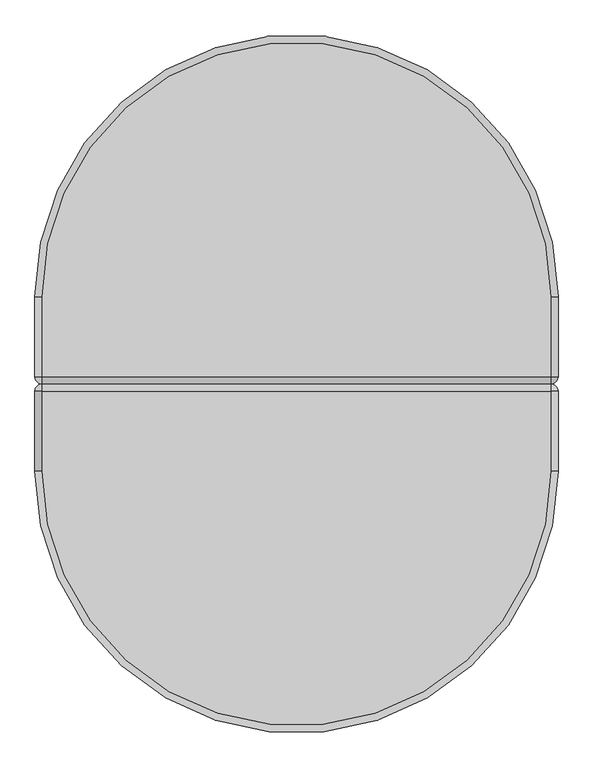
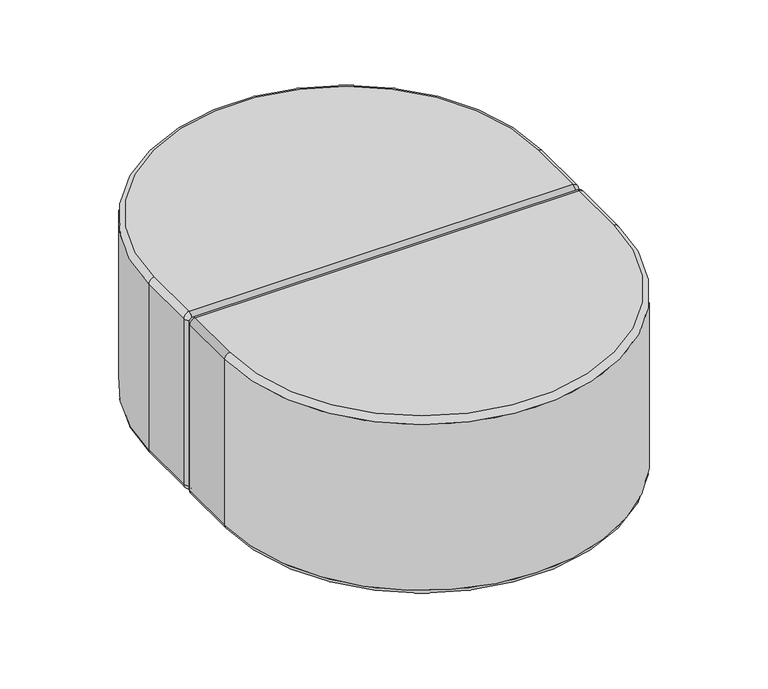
"""IFC4 building model written with IfcOpenShell, lengths in millimetres: furniture geometry, KFI Studios - Conversa - Ottoman : KFI Studios - Conversa - Ottoman."""

from ifc_helpers import new_model, si_unit, point, frame, origin, place, context, project, spatial, polyline, circle_curve, ellipse_curve, trimmed, source, transform, mapped, element, save
from ifc_brep_helpers import plane_surface, cylinder_surface, revolved_surface, advanced_brep


def furniture_520fb8d5(model_context):
    return source(origin(), model_context, "Body", "AdvancedBrep", [
        advanced_brep(
        [(8.2645895, 517.525, 25.4), (0.0, 517.525, 25.4), (-8.2645895, 517.525, 25.4), (8.2645895, 517.525, 14.2843611), (-8.2645895, 517.525, 14.2843611), (6.6626354, 517.525, 14.2843611), (-6.6626354, 517.525, 14.2843611), (6.6626354, 517.525, 12.7064551), (-6.6626354, 517.525, 12.7064551), (8.2640671, 517.525, 12.7064551), (-8.2640671, 517.525, 12.7064551), (17.4491215, 517.525, 3.1950529), (-17.4491215, 517.525, 3.1950529), (17.4491215, 517.525, 0.0), (-17.4491215, 517.525, 0.0), (0.0, 517.525, 0.0)],
        [
            (0, 1),
            (1, 2),
            (2, 0, circle_curve(frame((0.0, 517.525, 25.4), z_axis=(0.0, 0.0, 1.0), x_axis=(-1.0, 0.0, 0.0)), 8.2645895)),
            (0, 2, circle_curve(frame((0.0, 517.525, 25.4), z_axis=(0.0, 0.0, 1.0), x_axis=(-1.0, 0.0, 0.0)), 8.2645895)),
            (3, 0),
            (2, 4),
            (4, 3, circle_curve(frame((0.0, 517.525, 14.2843611), z_axis=(0.0, 0.0, 1.0), x_axis=(-1.0, 0.0, 0.0)), 8.2645895)),
            (3, 4, circle_curve(frame((0.0, 517.525, 14.2843611), z_axis=(0.0, 0.0, 1.0), x_axis=(-1.0, 0.0, 0.0)), 8.2645895)),
            (5, 3),
            (4, 6),
            (6, 5, circle_curve(frame((0.0, 517.525, 14.2843611), z_axis=(0.0, 0.0, 1.0), x_axis=(-1.0, 0.0, 0.0)), 6.6626354)),
            (5, 6, circle_curve(frame((0.0, 517.525, 14.2843611), z_axis=(0.0, 0.0, 1.0), x_axis=(-1.0, 0.0, 0.0)), 6.6626354)),
            (7, 5),
            (6, 8),
            (8, 7, circle_curve(frame((0.0, 517.525, 12.7064551), z_axis=(0.0, 0.0, 1.0), x_axis=(-1.0, 0.0, 0.0)), 6.6626354)),
            (7, 8, circle_curve(frame((0.0, 517.525, 12.7064551), z_axis=(0.0, 0.0, 1.0), x_axis=(-1.0, 0.0, 0.0)), 6.6626354)),
            (9, 7),
            (8, 10),
            (10, 9, circle_curve(frame((0.0, 517.525, 12.7064551), z_axis=(0.0, 0.0, 1.0), x_axis=(-1.0, 0.0, 0.0)), 8.2640671)),
            (9, 10, circle_curve(frame((0.0, 517.525, 12.7064551), z_axis=(0.0, 0.0, 1.0), x_axis=(-1.0, 0.0, 0.0)), 8.2640671)),
            (11, 9),
            (10, 12),
            (12, 11, circle_curve(frame((0.0, 517.525, 3.1950529), z_axis=(0.0, 0.0, 1.0), x_axis=(-1.0, 0.0, 0.0)), 17.4491215)),
            (11, 12, circle_curve(frame((0.0, 517.525, 3.1950529), z_axis=(0.0, 0.0, 1.0), x_axis=(-1.0, 0.0, 0.0)), 17.4491215)),
            (13, 11),
            (12, 14),
            (14, 13, circle_curve(frame((0.0, 517.525, 0.0), z_axis=(0.0, 0.0, 1.0), x_axis=(-1.0, 0.0, 0.0)), 17.4491215)),
            (13, 14, circle_curve(frame((0.0, 517.525, 0.0), z_axis=(0.0, 0.0, 1.0), x_axis=(-1.0, 0.0, 0.0)), 17.4491215)),
            (15, 13),
            (14, 15),
        ],
        [
            plane_surface(frame((0.0, 517.525, 25.4), z_axis=(0.0, 0.0, 1.0), x_axis=(-1.0, 0.0, 0.0))),
            cylinder_surface(frame((0.0, 517.525, 33.820929), z_axis=(0.0, 0.0, -1.0), x_axis=(-1.0, 0.0, 0.0)), 8.2645895),
            plane_surface(frame((0.0, 517.525, 14.2843611), z_axis=(0.0, 0.0, -1.0), x_axis=(-1.0, 0.0, 0.0))),
            cylinder_surface(frame((0.0, 517.525, 33.820929), z_axis=(0.0, 0.0, -1.0), x_axis=(-1.0, 0.0, 0.0)), 6.6626354),
            plane_surface(frame((0.0, 517.525, 12.7064551), z_axis=(0.0, 0.0, 1.0), x_axis=(-1.0, 0.0, 0.0))),
            revolved_surface(polyline([(-8.2640671, 517.525, 12.7064551), (-17.4491215, 517.525, 3.1950529)]), (0.0, 517.525, 33.820929), (0.0, 0.0, -1.0)),
            cylinder_surface(frame((0.0, 517.525, 33.820929), z_axis=(0.0, 0.0, -1.0), x_axis=(-1.0, 0.0, 0.0)), 17.4491215),
            plane_surface(frame((0.0, 517.525, 0.0), z_axis=(0.0, 0.0, -1.0), x_axis=(-1.0, 0.0, 0.0))),
        ],
        [
            (0, [[1, 2, 3]]),
            (0, [[-2, -1, 4]]),
            (1, [[5, -3, 6, 7]]),
            (1, [[-6, -4, -5, 8]]),
            (2, [[9, -7, 10, 11]]),
            (2, [[-10, -8, -9, 12]]),
            (3, [[13, -11, 14, 15]]),
            (3, [[-14, -12, -13, 16]]),
            (4, [[17, -15, 18, 19]]),
            (4, [[-18, -16, -17, 20]]),
            (5, [[21, -19, 22, 23]]),
            (5, [[-22, -20, -21, 24]]),
            (6, [[25, -23, 26, 27]]),
            (6, [[-26, -24, -25, 28]]),
            (7, [[29, -27, 30]]),
            (7, [[-30, -28, -29]]),
        ],
    ),
        advanced_brep(
        [(356.8604105, 92.075, 25.4), (373.3895895, 92.075, 25.4), (365.125, 92.075, 25.4), (356.8604105, 92.075, 14.2843611), (373.3895895, 92.075, 14.2843611), (358.4623646, 92.075, 14.2843611), (371.7876354, 92.075, 14.2843611), (358.4623646, 92.075, 12.7064551), (371.7876354, 92.075, 12.7064551), (356.8609329, 92.075, 12.7064551), (373.3890671, 92.075, 12.7064551), (347.6758785, 92.075, 3.1950529), (382.5741215, 92.075, 3.1950529), (347.6758785, 92.075, 0.0), (382.5741215, 92.075, 0.0), (365.125, 92.075, 0.0)],
        [
            (0, 1, circle_curve(frame((365.125, 92.075, 25.4), z_axis=(0.0, 0.0, 1.0), x_axis=(1.0, 0.0, 0.0)), 8.2645895)),
            (1, 2),
            (2, 0),
            (1, 0, circle_curve(frame((365.125, 92.075, 25.4), z_axis=(0.0, 0.0, 1.0), x_axis=(1.0, 0.0, 0.0)), 8.2645895)),
            (3, 4, circle_curve(frame((365.125, 92.075, 14.2843611), z_axis=(0.0, 0.0, 1.0), x_axis=(1.0, 0.0, 0.0)), 8.2645895)),
            (4, 1),
            (0, 3),
            (4, 3, circle_curve(frame((365.125, 92.075, 14.2843611), z_axis=(0.0, 0.0, 1.0), x_axis=(1.0, 0.0, 0.0)), 8.2645895)),
            (5, 6, circle_curve(frame((365.125, 92.075, 14.2843611), z_axis=(0.0, 0.0, 1.0), x_axis=(1.0, 0.0, 0.0)), 6.6626354)),
            (6, 4),
            (3, 5),
            (6, 5, circle_curve(frame((365.125, 92.075, 14.2843611), z_axis=(0.0, 0.0, 1.0), x_axis=(1.0, 0.0, 0.0)), 6.6626354)),
            (7, 8, circle_curve(frame((365.125, 92.075, 12.7064551), z_axis=(0.0, 0.0, 1.0), x_axis=(1.0, 0.0, 0.0)), 6.6626354)),
            (8, 6),
            (5, 7),
            (8, 7, circle_curve(frame((365.125, 92.075, 12.7064551), z_axis=(0.0, 0.0, 1.0), x_axis=(1.0, 0.0, 0.0)), 6.6626354)),
            (9, 10, circle_curve(frame((365.125, 92.075, 12.7064551), z_axis=(0.0, 0.0, 1.0), x_axis=(1.0, 0.0, 0.0)), 8.2640671)),
            (10, 8),
            (7, 9),
            (10, 9, circle_curve(frame((365.125, 92.075, 12.7064551), z_axis=(0.0, 0.0, 1.0), x_axis=(1.0, 0.0, 0.0)), 8.2640671)),
            (11, 12, circle_curve(frame((365.125, 92.075, 3.1950529), z_axis=(0.0, 0.0, 1.0), x_axis=(1.0, 0.0, 0.0)), 17.4491215)),
            (12, 10),
            (9, 11),
            (12, 11, circle_curve(frame((365.125, 92.075, 3.1950529), z_axis=(0.0, 0.0, 1.0), x_axis=(1.0, 0.0, 0.0)), 17.4491215)),
            (13, 14, circle_curve(frame((365.125, 92.075, 0.0), z_axis=(0.0, 0.0, 1.0), x_axis=(1.0, 0.0, 0.0)), 17.4491215)),
            (14, 12),
            (11, 13),
            (14, 13, circle_curve(frame((365.125, 92.075, 0.0), z_axis=(0.0, 0.0, 1.0), x_axis=(1.0, 0.0, 0.0)), 17.4491215)),
            (15, 14),
            (13, 15),
        ],
        [
            plane_surface(frame((365.125, 92.075, 25.4), z_axis=(0.0, 0.0, 1.0), x_axis=(1.0, 0.0, 0.0))),
            cylinder_surface(frame((365.125, 92.075, 33.820929), z_axis=(0.0, 0.0, -1.0), x_axis=(1.0, 0.0, 0.0)), 8.2645895),
            plane_surface(frame((365.125, 92.075, 14.2843611), z_axis=(0.0, 0.0, -1.0), x_axis=(1.0, 0.0, 0.0))),
            cylinder_surface(frame((365.125, 92.075, 33.820929), z_axis=(0.0, 0.0, -1.0), x_axis=(1.0, 0.0, 0.0)), 6.6626354),
            plane_surface(frame((365.125, 92.075, 12.7064551), z_axis=(0.0, 0.0, 1.0), x_axis=(1.0, 0.0, 0.0))),
            revolved_surface(polyline([(373.3890671, 92.075, 12.7064551), (382.5741215, 92.075, 3.1950529)]), (365.125, 92.075, 33.820929), (0.0, 0.0, -1.0)),
            cylinder_surface(frame((365.125, 92.075, 33.820929), z_axis=(0.0, 0.0, -1.0), x_axis=(1.0, 0.0, 0.0)), 17.4491215),
            plane_surface(frame((365.125, 92.075, 0.0), z_axis=(0.0, 0.0, -1.0), x_axis=(1.0, 0.0, 0.0))),
        ],
        [
            (0, [[1, 2, 3]]),
            (0, [[4, -3, -2]]),
            (1, [[5, 6, -1, 7]]),
            (1, [[8, -7, -4, -6]]),
            (2, [[9, 10, -5, 11]]),
            (2, [[12, -11, -8, -10]]),
            (3, [[13, 14, -9, 15]]),
            (3, [[16, -15, -12, -14]]),
            (4, [[17, 18, -13, 19]]),
            (4, [[20, -19, -16, -18]]),
            (5, [[21, 22, -17, 23]]),
            (5, [[24, -23, -20, -22]]),
            (6, [[25, 26, -21, 27]]),
            (6, [[28, -27, -24, -26]]),
            (7, [[29, -25, 30]]),
            (7, [[-30, -28, -29]]),
        ],
    ),
        advanced_brep(
        [(-356.8604105, 92.075, 25.4), (-365.125, 92.075, 25.4), (-373.3895895, 92.075, 25.4), (-356.8604105, 92.075, 14.2843611), (-373.3895895, 92.075, 14.2843611), (-358.4623646, 92.075, 14.2843611), (-371.7876354, 92.075, 14.2843611), (-358.4623646, 92.075, 12.7064551), (-371.7876354, 92.075, 12.7064551), (-356.8609329, 92.075, 12.7064551), (-373.3890671, 92.075, 12.7064551), (-347.6758785, 92.075, 3.1950529), (-382.5741215, 92.075, 3.1950529), (-347.6758785, 92.075, 0.0), (-382.5741215, 92.075, 0.0), (-365.125, 92.075, 0.0)],
        [
            (0, 1),
            (1, 2),
            (2, 0, circle_curve(frame((-365.125, 92.075, 25.4), z_axis=(0.0, 0.0, 1.0), x_axis=(-1.0, 0.0, 0.0)), 8.2645895)),
            (0, 2, circle_curve(frame((-365.125, 92.075, 25.4), z_axis=(0.0, 0.0, 1.0), x_axis=(-1.0, 0.0, 0.0)), 8.2645895)),
            (3, 0),
            (2, 4),
            (4, 3, circle_curve(frame((-365.125, 92.075, 14.2843611), z_axis=(0.0, 0.0, 1.0), x_axis=(-1.0, 0.0, 0.0)), 8.2645895)),
            (3, 4, circle_curve(frame((-365.125, 92.075, 14.2843611), z_axis=(0.0, 0.0, 1.0), x_axis=(-1.0, 0.0, 0.0)), 8.2645895)),
            (5, 3),
            (4, 6),
            (6, 5, circle_curve(frame((-365.125, 92.075, 14.2843611), z_axis=(0.0, 0.0, 1.0), x_axis=(-1.0, 0.0, 0.0)), 6.6626354)),
            (5, 6, circle_curve(frame((-365.125, 92.075, 14.2843611), z_axis=(0.0, 0.0, 1.0), x_axis=(-1.0, 0.0, 0.0)), 6.6626354)),
            (7, 5),
            (6, 8),
            (8, 7, circle_curve(frame((-365.125, 92.075, 12.7064551), z_axis=(0.0, 0.0, 1.0), x_axis=(-1.0, 0.0, 0.0)), 6.6626354)),
            (7, 8, circle_curve(frame((-365.125, 92.075, 12.7064551), z_axis=(0.0, 0.0, 1.0), x_axis=(-1.0, 0.0, 0.0)), 6.6626354)),
            (9, 7),
            (8, 10),
            (10, 9, circle_curve(frame((-365.125, 92.075, 12.7064551), z_axis=(0.0, 0.0, 1.0), x_axis=(-1.0, 0.0, 0.0)), 8.2640671)),
            (9, 10, circle_curve(frame((-365.125, 92.075, 12.7064551), z_axis=(0.0, 0.0, 1.0), x_axis=(-1.0, 0.0, 0.0)), 8.2640671)),
            (11, 9),
            (10, 12),
            (12, 11, circle_curve(frame((-365.125, 92.075, 3.1950529), z_axis=(0.0, 0.0, 1.0), x_axis=(-1.0, 0.0, 0.0)), 17.4491215)),
            (11, 12, circle_curve(frame((-365.125, 92.075, 3.1950529), z_axis=(0.0, 0.0, 1.0), x_axis=(-1.0, 0.0, 0.0)), 17.4491215)),
            (13, 11),
            (12, 14),
            (14, 13, circle_curve(frame((-365.125, 92.075, 0.0), z_axis=(0.0, 0.0, 1.0), x_axis=(-1.0, 0.0, 0.0)), 17.4491215)),
            (13, 14, circle_curve(frame((-365.125, 92.075, 0.0), z_axis=(0.0, 0.0, 1.0), x_axis=(-1.0, 0.0, 0.0)), 17.4491215)),
            (15, 13),
            (14, 15),
        ],
        [
            plane_surface(frame((-365.125, 92.075, 25.4), z_axis=(0.0, 0.0, 1.0), x_axis=(-1.0, 0.0, 0.0))),
            cylinder_surface(frame((-365.125, 92.075, 33.820929), z_axis=(0.0, 0.0, -1.0), x_axis=(-1.0, 0.0, 0.0)), 8.2645895),
            plane_surface(frame((-365.125, 92.075, 14.2843611), z_axis=(0.0, 0.0, -1.0), x_axis=(-1.0, 0.0, 0.0))),
            cylinder_surface(frame((-365.125, 92.075, 33.820929), z_axis=(0.0, 0.0, -1.0), x_axis=(-1.0, 0.0, 0.0)), 6.6626354),
            plane_surface(frame((-365.125, 92.075, 12.7064551), z_axis=(0.0, 0.0, 1.0), x_axis=(-1.0, 0.0, 0.0))),
            revolved_surface(polyline([(-373.3890671, 92.075, 12.7064551), (-382.5741215, 92.075, 3.1950529)]), (-365.125, 92.075, 33.820929), (0.0, 0.0, -1.0)),
            cylinder_surface(frame((-365.125, 92.075, 33.820929), z_axis=(0.0, 0.0, -1.0), x_axis=(-1.0, 0.0, 0.0)), 17.4491215),
            plane_surface(frame((-365.125, 92.075, 0.0), z_axis=(0.0, 0.0, -1.0), x_axis=(-1.0, 0.0, 0.0))),
        ],
        [
            (0, [[1, 2, 3]]),
            (0, [[-2, -1, 4]]),
            (1, [[5, -3, 6, 7]]),
            (1, [[-6, -4, -5, 8]]),
            (2, [[9, -7, 10, 11]]),
            (2, [[-10, -8, -9, 12]]),
            (3, [[13, -11, 14, 15]]),
            (3, [[-14, -12, -13, 16]]),
            (4, [[17, -15, 18, 19]]),
            (4, [[-18, -16, -17, 20]]),
            (5, [[21, -19, 22, 23]]),
            (5, [[-22, -20, -21, 24]]),
            (6, [[25, -23, 26, 27]]),
            (6, [[-26, -24, -25, 28]]),
            (7, [[29, -27, 30]]),
            (7, [[-30, -28, -29]]),
        ],
    ),
        advanced_brep(
        [(8.2645895, -517.525, 25.4), (-8.2645895, -517.525, 25.4), (0.0, -517.525, 25.4), (8.2645895, -517.525, 14.2843611), (-8.2645895, -517.525, 14.2843611), (6.6626354, -517.525, 14.2843611), (-6.6626354, -517.525, 14.2843611), (6.6626354, -517.525, 12.7064551), (-6.6626354, -517.525, 12.7064551), (8.2640671, -517.525, 12.7064551), (-8.2640671, -517.525, 12.7064551), (17.4491215, -517.525, 3.1950529), (-17.4491215, -517.525, 3.1950529), (17.4491215, -517.525, 0.0), (-17.4491215, -517.525, 0.0), (0.0, -517.525, 0.0)],
        [
            (0, 1, circle_curve(frame((0.0, -517.525, 25.4), z_axis=(0.0, 0.0, 1.0), x_axis=(-1.0, 0.0, 0.0)), 8.2645895)),
            (1, 2),
            (2, 0),
            (1, 0, circle_curve(frame((0.0, -517.525, 25.4), z_axis=(0.0, 0.0, 1.0), x_axis=(-1.0, 0.0, 0.0)), 8.2645895)),
            (3, 4, circle_curve(frame((0.0, -517.525, 14.2843611), z_axis=(0.0, 0.0, 1.0), x_axis=(-1.0, 0.0, 0.0)), 8.2645895)),
            (4, 1),
            (0, 3),
            (4, 3, circle_curve(frame((0.0, -517.525, 14.2843611), z_axis=(0.0, 0.0, 1.0), x_axis=(-1.0, 0.0, 0.0)), 8.2645895)),
            (5, 6, circle_curve(frame((0.0, -517.525, 14.2843611), z_axis=(0.0, 0.0, 1.0), x_axis=(-1.0, 0.0, 0.0)), 6.6626354)),
            (6, 4),
            (3, 5),
            (6, 5, circle_curve(frame((0.0, -517.525, 14.2843611), z_axis=(0.0, 0.0, 1.0), x_axis=(-1.0, 0.0, 0.0)), 6.6626354)),
            (7, 8, circle_curve(frame((0.0, -517.525, 12.7064551), z_axis=(0.0, 0.0, 1.0), x_axis=(-1.0, 0.0, 0.0)), 6.6626354)),
            (8, 6),
            (5, 7),
            (8, 7, circle_curve(frame((0.0, -517.525, 12.7064551), z_axis=(0.0, 0.0, 1.0), x_axis=(-1.0, 0.0, 0.0)), 6.6626354)),
            (9, 10, circle_curve(frame((0.0, -517.525, 12.7064551), z_axis=(0.0, 0.0, 1.0), x_axis=(-1.0, 0.0, 0.0)), 8.2640671)),
            (10, 8),
            (7, 9),
            (10, 9, circle_curve(frame((0.0, -517.525, 12.7064551), z_axis=(0.0, 0.0, 1.0), x_axis=(-1.0, 0.0, 0.0)), 8.2640671)),
            (11, 12, circle_curve(frame((0.0, -517.525, 3.1950529), z_axis=(0.0, 0.0, 1.0), x_axis=(-1.0, 0.0, 0.0)), 17.4491215)),
            (12, 10),
            (9, 11),
            (12, 11, circle_curve(frame((0.0, -517.525, 3.1950529), z_axis=(0.0, 0.0, 1.0), x_axis=(-1.0, 0.0, 0.0)), 17.4491215)),
            (13, 14, circle_curve(frame((0.0, -517.525, 0.0), z_axis=(0.0, 0.0, 1.0), x_axis=(-1.0, 0.0, 0.0)), 17.4491215)),
            (14, 12),
            (11, 13),
            (14, 13, circle_curve(frame((0.0, -517.525, 0.0), z_axis=(0.0, 0.0, 1.0), x_axis=(-1.0, 0.0, 0.0)), 17.4491215)),
            (15, 14),
            (13, 15),
        ],
        [
            plane_surface(frame((0.0, -517.525, 25.4), z_axis=(0.0, 0.0, 1.0), x_axis=(-1.0, 0.0, 0.0))),
            cylinder_surface(frame((0.0, -517.525, 33.820929), z_axis=(0.0, 0.0, -1.0), x_axis=(-1.0, 0.0, 0.0)), 8.2645895),
            plane_surface(frame((0.0, -517.525, 14.2843611), z_axis=(0.0, 0.0, -1.0), x_axis=(-1.0, 0.0, 0.0))),
            cylinder_surface(frame((0.0, -517.525, 33.820929), z_axis=(0.0, 0.0, -1.0), x_axis=(-1.0, 0.0, 0.0)), 6.6626354),
            plane_surface(frame((0.0, -517.525, 12.7064551), z_axis=(0.0, 0.0, 1.0), x_axis=(-1.0, 0.0, 0.0))),
            revolved_surface(polyline([(-8.2640671, -517.525, 12.7064551), (-17.4491215, -517.525, 3.1950529)]), (0.0, -517.525, 33.820929), (0.0, 0.0, -1.0)),
            cylinder_surface(frame((0.0, -517.525, 33.820929), z_axis=(0.0, 0.0, -1.0), x_axis=(-1.0, 0.0, 0.0)), 17.4491215),
            plane_surface(frame((0.0, -517.525, 0.0), z_axis=(0.0, 0.0, -1.0), x_axis=(-1.0, 0.0, 0.0))),
        ],
        [
            (0, [[1, 2, 3]]),
            (0, [[4, -3, -2]]),
            (1, [[5, 6, -1, 7]]),
            (1, [[8, -7, -4, -6]]),
            (2, [[9, 10, -5, 11]]),
            (2, [[12, -11, -8, -10]]),
            (3, [[13, 14, -9, 15]]),
            (3, [[16, -15, -12, -14]]),
            (4, [[17, 18, -13, 19]]),
            (4, [[20, -19, -16, -18]]),
            (5, [[21, 22, -17, 23]]),
            (5, [[24, -23, -20, -22]]),
            (6, [[25, 26, -21, 27]]),
            (6, [[28, -27, -24, -26]]),
            (7, [[29, -25, 30]]),
            (7, [[-30, -28, -29]]),
        ],
    ),
        advanced_brep(
        [(356.8604105, -92.075, 25.4), (365.125, -92.075, 25.4), (373.3895895, -92.075, 25.4), (356.8604105, -92.075, 14.2843611), (373.3895895, -92.075, 14.2843611), (358.4623646, -92.075, 14.2843611), (371.7876354, -92.075, 14.2843611), (358.4623646, -92.075, 12.7064551), (371.7876354, -92.075, 12.7064551), (356.8609329, -92.075, 12.7064551), (373.3890671, -92.075, 12.7064551), (347.6758785, -92.075, 3.1950529), (382.5741215, -92.075, 3.1950529), (347.6758785, -92.075, 0.0), (382.5741215, -92.075, 0.0), (365.125, -92.075, 0.0)],
        [
            (0, 1),
            (1, 2),
            (2, 0, circle_curve(frame((365.125, -92.075, 25.4), z_axis=(0.0, 0.0, 1.0), x_axis=(1.0, 0.0, 0.0)), 8.2645895)),
            (0, 2, circle_curve(frame((365.125, -92.075, 25.4), z_axis=(0.0, 0.0, 1.0), x_axis=(1.0, 0.0, 0.0)), 8.2645895)),
            (3, 0),
            (2, 4),
            (4, 3, circle_curve(frame((365.125, -92.075, 14.2843611), z_axis=(0.0, 0.0, 1.0), x_axis=(1.0, 0.0, 0.0)), 8.2645895)),
            (3, 4, circle_curve(frame((365.125, -92.075, 14.2843611), z_axis=(0.0, 0.0, 1.0), x_axis=(1.0, 0.0, 0.0)), 8.2645895)),
            (5, 3),
            (4, 6),
            (6, 5, circle_curve(frame((365.125, -92.075, 14.2843611), z_axis=(0.0, 0.0, 1.0), x_axis=(1.0, 0.0, 0.0)), 6.6626354)),
            (5, 6, circle_curve(frame((365.125, -92.075, 14.2843611), z_axis=(0.0, 0.0, 1.0), x_axis=(1.0, 0.0, 0.0)), 6.6626354)),
            (7, 5),
            (6, 8),
            (8, 7, circle_curve(frame((365.125, -92.075, 12.7064551), z_axis=(0.0, 0.0, 1.0), x_axis=(1.0, 0.0, 0.0)), 6.6626354)),
            (7, 8, circle_curve(frame((365.125, -92.075, 12.7064551), z_axis=(0.0, 0.0, 1.0), x_axis=(1.0, 0.0, 0.0)), 6.6626354)),
            (9, 7),
            (8, 10),
            (10, 9, circle_curve(frame((365.125, -92.075, 12.7064551), z_axis=(0.0, 0.0, 1.0), x_axis=(1.0, 0.0, 0.0)), 8.2640671)),
            (9, 10, circle_curve(frame((365.125, -92.075, 12.7064551), z_axis=(0.0, 0.0, 1.0), x_axis=(1.0, 0.0, 0.0)), 8.2640671)),
            (11, 9),
            (10, 12),
            (12, 11, circle_curve(frame((365.125, -92.075, 3.1950529), z_axis=(0.0, 0.0, 1.0), x_axis=(1.0, 0.0, 0.0)), 17.4491215)),
            (11, 12, circle_curve(frame((365.125, -92.075, 3.1950529), z_axis=(0.0, 0.0, 1.0), x_axis=(1.0, 0.0, 0.0)), 17.4491215)),
            (13, 11),
            (12, 14),
            (14, 13, circle_curve(frame((365.125, -92.075, 0.0), z_axis=(0.0, 0.0, 1.0), x_axis=(1.0, 0.0, 0.0)), 17.4491215)),
            (13, 14, circle_curve(frame((365.125, -92.075, 0.0), z_axis=(0.0, 0.0, 1.0), x_axis=(1.0, 0.0, 0.0)), 17.4491215)),
            (15, 13),
            (14, 15),
        ],
        [
            plane_surface(frame((365.125, -92.075, 25.4), z_axis=(0.0, 0.0, 1.0), x_axis=(1.0, 0.0, 0.0))),
            cylinder_surface(frame((365.125, -92.075, 33.820929), z_axis=(0.0, 0.0, -1.0), x_axis=(1.0, 0.0, 0.0)), 8.2645895),
            plane_surface(frame((365.125, -92.075, 14.2843611), z_axis=(0.0, 0.0, -1.0), x_axis=(1.0, 0.0, 0.0))),
            cylinder_surface(frame((365.125, -92.075, 33.820929), z_axis=(0.0, 0.0, -1.0), x_axis=(1.0, 0.0, 0.0)), 6.6626354),
            plane_surface(frame((365.125, -92.075, 12.7064551), z_axis=(0.0, 0.0, 1.0), x_axis=(1.0, 0.0, 0.0))),
            revolved_surface(polyline([(373.3890671, -92.075, 12.7064551), (382.5741215, -92.075, 3.1950529)]), (365.125, -92.075, 33.820929), (0.0, 0.0, -1.0)),
            cylinder_surface(frame((365.125, -92.075, 33.820929), z_axis=(0.0, 0.0, -1.0), x_axis=(1.0, 0.0, 0.0)), 17.4491215),
            plane_surface(frame((365.125, -92.075, 0.0), z_axis=(0.0, 0.0, -1.0), x_axis=(1.0, 0.0, 0.0))),
        ],
        [
            (0, [[1, 2, 3]]),
            (0, [[-2, -1, 4]]),
            (1, [[5, -3, 6, 7]]),
            (1, [[-6, -4, -5, 8]]),
            (2, [[9, -7, 10, 11]]),
            (2, [[-10, -8, -9, 12]]),
            (3, [[13, -11, 14, 15]]),
            (3, [[-14, -12, -13, 16]]),
            (4, [[17, -15, 18, 19]]),
            (4, [[-18, -16, -17, 20]]),
            (5, [[21, -19, 22, 23]]),
            (5, [[-22, -20, -21, 24]]),
            (6, [[25, -23, 26, 27]]),
            (6, [[-26, -24, -25, 28]]),
            (7, [[29, -27, 30]]),
            (7, [[-30, -28, -29]]),
        ],
    ),
        advanced_brep(
        [(-356.8604105, -92.075, 25.4), (-373.3895895, -92.075, 25.4), (-365.125, -92.075, 25.4), (-356.8604105, -92.075, 14.2843611), (-373.3895895, -92.075, 14.2843611), (-358.4623646, -92.075, 14.2843611), (-371.7876354, -92.075, 14.2843611), (-358.4623646, -92.075, 12.7064551), (-371.7876354, -92.075, 12.7064551), (-356.8609329, -92.075, 12.7064551), (-373.3890671, -92.075, 12.7064551), (-347.6758785, -92.075, 3.1950529), (-382.5741215, -92.075, 3.1950529), (-347.6758785, -92.075, 0.0), (-382.5741215, -92.075, 0.0), (-365.125, -92.075, 0.0)],
        [
            (0, 1, circle_curve(frame((-365.125, -92.075, 25.4), z_axis=(0.0, 0.0, 1.0), x_axis=(-1.0, 0.0, 0.0)), 8.2645895)),
            (1, 2),
            (2, 0),
            (1, 0, circle_curve(frame((-365.125, -92.075, 25.4), z_axis=(0.0, 0.0, 1.0), x_axis=(-1.0, 0.0, 0.0)), 8.2645895)),
            (3, 4, circle_curve(frame((-365.125, -92.075, 14.2843611), z_axis=(0.0, 0.0, 1.0), x_axis=(-1.0, 0.0, 0.0)), 8.2645895)),
            (4, 1),
            (0, 3),
            (4, 3, circle_curve(frame((-365.125, -92.075, 14.2843611), z_axis=(0.0, 0.0, 1.0), x_axis=(-1.0, 0.0, 0.0)), 8.2645895)),
            (5, 6, circle_curve(frame((-365.125, -92.075, 14.2843611), z_axis=(0.0, 0.0, 1.0), x_axis=(-1.0, 0.0, 0.0)), 6.6626354)),
            (6, 4),
            (3, 5),
            (6, 5, circle_curve(frame((-365.125, -92.075, 14.2843611), z_axis=(0.0, 0.0, 1.0), x_axis=(-1.0, 0.0, 0.0)), 6.6626354)),
            (7, 8, circle_curve(frame((-365.125, -92.075, 12.7064551), z_axis=(0.0, 0.0, 1.0), x_axis=(-1.0, 0.0, 0.0)), 6.6626354)),
            (8, 6),
            (5, 7),
            (8, 7, circle_curve(frame((-365.125, -92.075, 12.7064551), z_axis=(0.0, 0.0, 1.0), x_axis=(-1.0, 0.0, 0.0)), 6.6626354)),
            (9, 10, circle_curve(frame((-365.125, -92.075, 12.7064551), z_axis=(0.0, 0.0, 1.0), x_axis=(-1.0, 0.0, 0.0)), 8.2640671)),
            (10, 8),
            (7, 9),
            (10, 9, circle_curve(frame((-365.125, -92.075, 12.7064551), z_axis=(0.0, 0.0, 1.0), x_axis=(-1.0, 0.0, 0.0)), 8.2640671)),
            (11, 12, circle_curve(frame((-365.125, -92.075, 3.1950529), z_axis=(0.0, 0.0, 1.0), x_axis=(-1.0, 0.0, 0.0)), 17.4491215)),
            (12, 10),
            (9, 11),
            (12, 11, circle_curve(frame((-365.125, -92.075, 3.1950529), z_axis=(0.0, 0.0, 1.0), x_axis=(-1.0, 0.0, 0.0)), 17.4491215)),
            (13, 14, circle_curve(frame((-365.125, -92.075, 0.0), z_axis=(0.0, 0.0, 1.0), x_axis=(-1.0, 0.0, 0.0)), 17.4491215)),
            (14, 12),
            (11, 13),
            (14, 13, circle_curve(frame((-365.125, -92.075, 0.0), z_axis=(0.0, 0.0, 1.0), x_axis=(-1.0, 0.0, 0.0)), 17.4491215)),
            (15, 14),
            (13, 15),
        ],
        [
            plane_surface(frame((-365.125, -92.075, 25.4), z_axis=(0.0, 0.0, 1.0), x_axis=(-1.0, 0.0, 0.0))),
            cylinder_surface(frame((-365.125, -92.075, 33.820929), z_axis=(0.0, 0.0, -1.0), x_axis=(-1.0, 0.0, 0.0)), 8.2645895),
            plane_surface(frame((-365.125, -92.075, 14.2843611), z_axis=(0.0, 0.0, -1.0), x_axis=(-1.0, 0.0, 0.0))),
            cylinder_surface(frame((-365.125, -92.075, 33.820929), z_axis=(0.0, 0.0, -1.0), x_axis=(-1.0, 0.0, 0.0)), 6.6626354),
            plane_surface(frame((-365.125, -92.075, 12.7064551), z_axis=(0.0, 0.0, 1.0), x_axis=(-1.0, 0.0, 0.0))),
            revolved_surface(polyline([(-373.3890671, -92.075, 12.7064551), (-382.5741215, -92.075, 3.1950529)]), (-365.125, -92.075, 33.820929), (0.0, 0.0, -1.0)),
            cylinder_surface(frame((-365.125, -92.075, 33.820929), z_axis=(0.0, 0.0, -1.0), x_axis=(-1.0, 0.0, 0.0)), 17.4491215),
            plane_surface(frame((-365.125, -92.075, 0.0), z_axis=(0.0, 0.0, -1.0), x_axis=(-1.0, 0.0, 0.0))),
        ],
        [
            (0, [[1, 2, 3]]),
            (0, [[4, -3, -2]]),
            (1, [[5, 6, -1, 7]]),
            (1, [[8, -7, -4, -6]]),
            (2, [[9, 10, -5, 11]]),
            (2, [[12, -11, -8, -10]]),
            (3, [[13, 14, -9, 15]]),
            (3, [[16, -15, -12, -14]]),
            (4, [[17, 18, -13, 19]]),
            (4, [[20, -19, -16, -18]]),
            (5, [[21, 22, -17, 23]]),
            (5, [[24, -23, -20, -22]]),
            (6, [[25, 26, -21, 27]]),
            (6, [[28, -27, -24, -26]]),
            (7, [[29, -25, 30]]),
            (7, [[-30, -28, -29]]),
        ],
    ),
        advanced_brep(
        [(444.5, 152.4, 457.2), (-444.5, 152.4, 457.2), (-444.5, 12.7, 457.2), (444.5, 12.7, 457.2), (457.2, 152.4, 444.5), (-457.2, 152.4, 444.5), (457.2, 152.4, 38.1), (-457.2, 152.4, 38.1), (444.5, 152.4, 25.4), (-444.5, 152.4, 25.4), (444.5, 12.7, 25.4), (-444.5, 12.7, 25.4), (-444.5, 0.0, 444.5), (444.5, 0.0, 444.5), (444.5, 0.0, 38.1), (-444.5, 0.0, 38.1), (-457.2, 12.7, 444.5), (-457.2, 12.7, 38.1), (457.2, 12.7, 38.1), (457.2, 12.7, 444.5)],
        [
            (0, 1, circle_curve(frame((0.0, 152.4, 457.2), z_axis=(0.0, 0.0, 1.0), x_axis=(1.0, 0.0, 0.0)), 444.5)),
            (1, 2),
            (2, 3),
            (3, 0),
            (0, 4, circle_curve(frame((444.5, 152.4, 444.5), z_axis=(0.0, 1.0, 0.0), x_axis=(-1.0, 0.0, 0.0)), 12.7)),
            (4, 5, circle_curve(frame((0.0, 152.4, 444.5), z_axis=(0.0, 0.0, 1.0), x_axis=(1.0, 0.0, 0.0)), 457.2)),
            (5, 1, circle_curve(frame((-444.5, 152.4, 444.5), z_axis=(0.0, 1.0, 0.0), x_axis=(1.0, 0.0, 0.0)), 12.7)),
            (4, 6),
            (6, 7, circle_curve(frame((0.0, 152.4, 38.1), z_axis=(0.0, 0.0, 1.0), x_axis=(1.0, 0.0, 0.0)), 457.2)),
            (7, 5),
            (6, 8, circle_curve(frame((444.5, 152.4, 38.1), z_axis=(0.0, 1.0, 0.0), x_axis=(-1.0, 0.0, 0.0)), 12.7)),
            (8, 9, circle_curve(frame((0.0, 152.4, 25.4), z_axis=(0.0, 0.0, 1.0), x_axis=(1.0, 0.0, 0.0)), 444.5)),
            (9, 7, circle_curve(frame((-444.5, 152.4, 38.1), z_axis=(0.0, 1.0, 0.0), x_axis=(1.0, 0.0, 0.0)), 12.7)),
            (8, 10),
            (10, 11),
            (11, 9),
            (12, 13),
            (13, 3, circle_curve(frame((444.5, 12.7, 444.5), z_axis=(-1.0, 0.0, 0.0), x_axis=(0.0, -1.0, 0.0)), 12.7)),
            (2, 12, circle_curve(frame((-444.5, 12.7, 444.5), z_axis=(1.0, 0.0, 0.0), x_axis=(0.0, -1.0, 0.0)), 12.7)),
            (10, 14, circle_curve(frame((444.5, 12.7, 38.1), z_axis=(-1.0, 0.0, 0.0), x_axis=(0.0, -1.0, 0.0)), 12.7)),
            (14, 15),
            (15, 11, circle_curve(frame((-444.5, 12.7, 38.1), z_axis=(1.0, 0.0, 0.0), x_axis=(0.0, -1.0, 0.0)), 12.7)),
            (12, 15),
            (14, 13),
            (5, 16),
            (16, 2, circle_curve(frame((-444.5, 12.7, 444.5), z_axis=(0.0, 1.0, 0.0), x_axis=(1.0, 0.0, 0.0)), 12.7)),
            (17, 7),
            (11, 17, circle_curve(frame((-444.5, 12.7, 38.1), z_axis=(0.0, 1.0, 0.0), x_axis=(1.0, 0.0, 0.0)), 12.7)),
            (17, 16),
            (18, 6),
            (4, 19),
            (19, 18),
            (18, 10, circle_curve(frame((444.5, 12.7, 38.1), z_axis=(0.0, 1.0, 0.0), x_axis=(-1.0, 0.0, 0.0)), 12.7)),
            (3, 19, circle_curve(frame((444.5, 12.7, 444.5), z_axis=(0.0, 1.0, 0.0), x_axis=(-1.0, 0.0, 0.0)), 12.7)),
            (15, 17, circle_curve(frame((-444.5, 12.7, 38.1), z_axis=(0.0, 0.0, -1.0), x_axis=(0.0, -1.0, 0.0)), 12.7)),
            (16, 12, circle_curve(frame((-444.5, 12.7, 444.5), z_axis=(0.0, 0.0, 1.0), x_axis=(0.0, -1.0, 0.0)), 12.7)),
            (18, 14, circle_curve(frame((444.5, 12.7, 38.1), z_axis=(0.0, 0.0, -1.0), x_axis=(0.0, -1.0, 0.0)), 12.7)),
            (13, 19, circle_curve(frame((444.5, 12.7, 444.5), z_axis=(0.0, 0.0, 1.0), x_axis=(0.0, -1.0, 0.0)), 12.7)),
        ],
        [
            plane_surface(frame((0.0, 152.4, 457.2), z_axis=(0.0, 0.0, 1.0), x_axis=(1.0, 0.0, 0.0))),
            revolved_surface(trimmed(ellipse_curve(frame((444.5, 152.4, 444.5), z_axis=(0.0, -1.0, 0.0), x_axis=(-1.0, 0.0, 0.0)), 12.7, 12.7), [point((457.2, 152.4, 444.5))], [point((444.5, 152.4, 457.2))], True, "CARTESIAN"), (0.0, 152.4, 457.2), (0.0, 0.0, 1.0)),
            cylinder_surface(frame((0.0, 152.4, 457.2), z_axis=(0.0, 0.0, 1.0), x_axis=(1.0, 0.0, 0.0)), 457.2),
            revolved_surface(trimmed(ellipse_curve(frame((444.5, 152.4, 38.1), z_axis=(0.0, -1.0, 0.0), x_axis=(-1.0, 0.0, 0.0)), 12.7, 12.7), [point((444.5, 152.4, 25.4))], [point((457.2, 152.4, 38.1))], True, "CARTESIAN"), (0.0, 152.4, 457.2), (0.0, 0.0, 1.0)),
            plane_surface(frame((0.0, 152.4, 25.4), z_axis=(0.0, 0.0, -1.0), x_axis=(1.0, 0.0, 0.0))),
            cylinder_surface(frame((444.5, 12.7, 444.5), z_axis=(-1.0, 0.0, 0.0), x_axis=(0.0, -1.0, 0.0)), 12.7),
            cylinder_surface(frame((444.5, 12.7, 38.1), z_axis=(-1.0, 0.0, 0.0), x_axis=(0.0, -1.0, 0.0)), 12.7),
            plane_surface(frame((-444.5, 0.0, 38.1), z_axis=(0.0, -1.0, 0.0), x_axis=(1.0, 0.0, 0.0))),
            cylinder_surface(frame((-444.5, 152.4, 444.5), z_axis=(0.0, -1.0, 0.0), x_axis=(1.0, 0.0, 0.0)), 12.7),
            cylinder_surface(frame((-444.5, 152.4, 38.1), z_axis=(0.0, -1.0, 0.0), x_axis=(1.0, 0.0, 0.0)), 12.7),
            plane_surface(frame((-457.2, 12.7, 444.5), z_axis=(-1.0, 0.0, 0.0), x_axis=(0.0, 1.0, 0.0))),
            plane_surface(frame((457.2, 12.7, 38.1), z_axis=(1.0, 0.0, 0.0), x_axis=(0.0, 1.0, 0.0))),
            cylinder_surface(frame((444.5, 152.4, 38.1), z_axis=(0.0, -1.0, 0.0), x_axis=(-1.0, 0.0, 0.0)), 12.7),
            cylinder_surface(frame((444.5, 152.4, 444.5), z_axis=(0.0, -1.0, 0.0), x_axis=(-1.0, 0.0, 0.0)), 12.7),
            revolved_surface(trimmed(ellipse_curve(frame((-444.5, 12.7, 38.1), z_axis=(1.0, 0.0, 0.0), x_axis=(0.0, -1.0, 0.0)), 12.7, 12.7), [point((-444.5, 0.0, 38.1))], [point((-444.5, 12.7, 25.4))], True, "CARTESIAN"), (-444.5, 12.7, 457.2), (0.0, 0.0, -1.0)),
            revolved_surface(trimmed(ellipse_curve(frame((-444.5, 12.7, 444.5), z_axis=(1.0, 0.0, 0.0), x_axis=(0.0, -1.0, 0.0)), 12.7, 12.7), [point((-444.5, 12.7, 457.2))], [point((-444.5, 0.0, 444.5))], True, "CARTESIAN"), (-444.5, 12.7, 457.2), (0.0, 0.0, -1.0)),
            cylinder_surface(frame((-444.5, 12.7, 457.2), z_axis=(0.0, 0.0, -1.0), x_axis=(0.0, -1.0, 0.0)), 12.7),
            revolved_surface(trimmed(ellipse_curve(frame((444.5, 12.7, 38.1), z_axis=(-1.0, 0.0, 0.0), x_axis=(0.0, -1.0, 0.0)), 12.7, 12.7), [point((444.5, 12.7, 25.4))], [point((444.5, 0.0, 38.1))], True, "CARTESIAN"), (444.5, 12.7, 457.2), (0.0, 0.0, 1.0)),
            revolved_surface(trimmed(ellipse_curve(frame((444.5, 12.7, 444.5), z_axis=(-1.0, 0.0, 0.0), x_axis=(0.0, -1.0, 0.0)), 12.7, 12.7), [point((444.5, 0.0, 444.5))], [point((444.5, 12.7, 457.2))], True, "CARTESIAN"), (444.5, 12.7, 457.2), (0.0, 0.0, 1.0)),
            cylinder_surface(frame((444.5, 12.7, 457.2), z_axis=(0.0, 0.0, 1.0), x_axis=(0.0, -1.0, 0.0)), 12.7),
        ],
        [
            (0, [[1, 2, 3, 4]]),
            (1, [[-1, 5, 6, 7]]),
            (2, [[-6, 8, 9, 10]]),
            (3, [[-9, 11, 12, 13]]),
            (4, [[-12, 14, 15, 16]]),
            (5, [[17, 18, -3, 19]]),
            (6, [[-15, 20, 21, 22]]),
            (7, [[-17, 23, -21, 24]]),
            (8, [[25, 26, -2, -7]]),
            (9, [[27, -13, -16, 28]]),
            (10, [[-25, -10, -27, 29]]),
            (11, [[30, -8, 31, 32]]),
            (12, [[-30, 33, -14, -11]]),
            (13, [[-31, -5, -4, 34]]),
            (14, [[35, -28, -22]]),
            (15, [[36, -19, -26]]),
            (16, [[-35, -23, -36, -29]]),
            (17, [[37, -20, -33]]),
            (18, [[38, -34, -18]]),
            (19, [[-37, -32, -38, -24]]),
        ],
    ),
        advanced_brep(
        [(-444.5, -12.7, 457.2), (444.5, -12.7, 457.2), (444.5, 0.0, 444.5), (-444.5, 0.0, 444.5), (-444.5, 0.0, 38.1), (444.5, 0.0, 38.1), (444.5, -12.7, 25.4), (-444.5, -12.7, 25.4), (444.5, -152.4, 25.4), (-444.5, -152.4, 25.4), (-444.5, -152.4, 457.2), (444.5, -152.4, 457.2), (-457.2, -152.4, 444.5), (457.2, -152.4, 444.5), (-457.2, -152.4, 38.1), (457.2, -152.4, 38.1), (-457.2, -12.7, 444.5), (-457.2, -12.7, 38.1), (457.2, -12.7, 444.5), (457.2, -12.7, 38.1)],
        [
            (0, 1),
            (1, 2, circle_curve(frame((444.5, -12.7, 444.5), z_axis=(-1.0, 0.0, 0.0), x_axis=(0.0, 1.0, 0.0)), 12.7)),
            (2, 3),
            (3, 0, circle_curve(frame((-444.5, -12.7, 444.5), z_axis=(1.0, 0.0, 0.0), x_axis=(0.0, 1.0, 0.0)), 12.7)),
            (4, 5),
            (5, 6, circle_curve(frame((444.5, -12.7, 38.1), z_axis=(-1.0, 0.0, 0.0), x_axis=(0.0, 1.0, 0.0)), 12.7)),
            (6, 7),
            (7, 4, circle_curve(frame((-444.5, -12.7, 38.1), z_axis=(1.0, 0.0, 0.0), x_axis=(0.0, 1.0, 0.0)), 12.7)),
            (2, 5),
            (4, 3),
            (6, 8),
            (8, 9, circle_curve(frame((0.0, -152.4, 25.4), z_axis=(0.0, 0.0, -1.0), x_axis=(1.0, 0.0, 0.0)), 444.5)),
            (9, 7),
            (0, 10),
            (10, 11, circle_curve(frame((0.0, -152.4, 457.2), z_axis=(0.0, 0.0, 1.0), x_axis=(1.0, 0.0, 0.0)), 444.5)),
            (11, 1),
            (10, 12, circle_curve(frame((-444.5, -152.4, 444.5), z_axis=(0.0, -1.0, 0.0), x_axis=(1.0, 0.0, 0.0)), 12.7)),
            (12, 13, circle_curve(frame((0.0, -152.4, 444.5), z_axis=(0.0, 0.0, 1.0), x_axis=(1.0, 0.0, 0.0)), 457.2)),
            (13, 11, circle_curve(frame((444.5, -152.4, 444.5), z_axis=(0.0, -1.0, 0.0), x_axis=(-1.0, 0.0, 0.0)), 12.7)),
            (12, 14),
            (14, 15, circle_curve(frame((0.0, -152.4, 38.1), z_axis=(0.0, 0.0, 1.0), x_axis=(1.0, 0.0, 0.0)), 457.2)),
            (15, 13),
            (14, 9, circle_curve(frame((-444.5, -152.4, 38.1), z_axis=(0.0, -1.0, 0.0), x_axis=(1.0, 0.0, 0.0)), 12.7)),
            (8, 15, circle_curve(frame((444.5, -152.4, 38.1), z_axis=(0.0, -1.0, 0.0), x_axis=(-1.0, 0.0, 0.0)), 12.7)),
            (16, 12),
            (0, 16, circle_curve(frame((-444.5, -12.7, 444.5), z_axis=(0.0, -1.0, 0.0), x_axis=(1.0, 0.0, 0.0)), 12.7)),
            (14, 17),
            (17, 7, circle_curve(frame((-444.5, -12.7, 38.1), z_axis=(0.0, -1.0, 0.0), x_axis=(1.0, 0.0, 0.0)), 12.7)),
            (16, 17),
            (18, 13),
            (15, 19),
            (19, 18),
            (6, 19, circle_curve(frame((444.5, -12.7, 38.1), z_axis=(0.0, -1.0, 0.0), x_axis=(-1.0, 0.0, 0.0)), 12.7)),
            (18, 1, circle_curve(frame((444.5, -12.7, 444.5), z_axis=(0.0, -1.0, 0.0), x_axis=(-1.0, 0.0, 0.0)), 12.7)),
            (17, 4, circle_curve(frame((-444.5, -12.7, 38.1), z_axis=(0.0, 0.0, -1.0), x_axis=(0.0, 1.0, 0.0)), 12.7)),
            (3, 16, circle_curve(frame((-444.5, -12.7, 444.5), z_axis=(0.0, 0.0, 1.0), x_axis=(0.0, 1.0, 0.0)), 12.7)),
            (5, 19, circle_curve(frame((444.5, -12.7, 38.1), z_axis=(0.0, 0.0, -1.0), x_axis=(0.0, 1.0, 0.0)), 12.7)),
            (18, 2, circle_curve(frame((444.5, -12.7, 444.5), z_axis=(0.0, 0.0, 1.0), x_axis=(0.0, 1.0, 0.0)), 12.7)),
        ],
        [
            cylinder_surface(frame((444.5, -12.7, 444.5), z_axis=(-1.0, 0.0, 0.0), x_axis=(0.0, 1.0, 0.0)), 12.7),
            cylinder_surface(frame((444.5, -12.7, 38.1), z_axis=(-1.0, 0.0, 0.0), x_axis=(0.0, 1.0, 0.0)), 12.7),
            plane_surface(frame((-444.5, 0.0, 444.5), z_axis=(0.0, 1.0, 0.0), x_axis=(1.0, 0.0, 0.0))),
            plane_surface(frame((-444.5, -12.7, 25.4), z_axis=(0.0, 0.0, -1.0), x_axis=(1.0, 0.0, 0.0))),
            plane_surface(frame((-444.5, -152.4, 457.2), z_axis=(0.0, 0.0, 1.0), x_axis=(1.0, 0.0, 0.0))),
            revolved_surface(trimmed(ellipse_curve(frame((444.5, -152.4, 444.5), z_axis=(0.0, 1.0, 0.0), x_axis=(-1.0, 0.0, 0.0)), 12.7, 12.7), [point((444.5, -152.4, 457.2))], [point((457.2, -152.4, 444.5))], True, "CARTESIAN"), (0.0, -152.4, 457.2), (0.0, 0.0, -1.0)),
            cylinder_surface(frame((0.0, -152.4, 457.2), z_axis=(0.0, 0.0, -1.0), x_axis=(1.0, 0.0, 0.0)), 457.2),
            revolved_surface(trimmed(ellipse_curve(frame((444.5, -152.4, 38.1), z_axis=(0.0, 1.0, 0.0), x_axis=(-1.0, 0.0, 0.0)), 12.7, 12.7), [point((457.2, -152.4, 38.1))], [point((444.5, -152.4, 25.4))], True, "CARTESIAN"), (0.0, -152.4, 457.2), (0.0, 0.0, -1.0)),
            cylinder_surface(frame((-444.5, -152.4, 444.5), z_axis=(0.0, 1.0, 0.0), x_axis=(1.0, 0.0, 0.0)), 12.7),
            cylinder_surface(frame((-444.5, -152.4, 38.1), z_axis=(0.0, 1.0, 0.0), x_axis=(1.0, 0.0, 0.0)), 12.7),
            plane_surface(frame((-457.2, -12.7, 38.1), z_axis=(-1.0, 0.0, 0.0), x_axis=(0.0, -1.0, 0.0))),
            plane_surface(frame((457.2, -12.7, 444.5), z_axis=(1.0, 0.0, 0.0), x_axis=(0.0, -1.0, 0.0))),
            cylinder_surface(frame((444.5, -152.4, 38.1), z_axis=(0.0, 1.0, 0.0), x_axis=(-1.0, 0.0, 0.0)), 12.7),
            cylinder_surface(frame((444.5, -152.4, 444.5), z_axis=(0.0, 1.0, 0.0), x_axis=(-1.0, 0.0, 0.0)), 12.7),
            revolved_surface(trimmed(ellipse_curve(frame((-444.5, -12.7, 38.1), z_axis=(1.0, 0.0, 0.0), x_axis=(0.0, 1.0, 0.0)), 12.7, 12.7), [point((-444.5, -12.7, 25.4))], [point((-444.5, 0.0, 38.1))], True, "CARTESIAN"), (-444.5, -12.7, 457.2), (0.0, 0.0, 1.0)),
            revolved_surface(trimmed(ellipse_curve(frame((-444.5, -12.7, 444.5), z_axis=(1.0, 0.0, 0.0), x_axis=(0.0, 1.0, 0.0)), 12.7, 12.7), [point((-444.5, 0.0, 444.5))], [point((-444.5, -12.7, 457.2))], True, "CARTESIAN"), (-444.5, -12.7, 457.2), (0.0, 0.0, 1.0)),
            cylinder_surface(frame((-444.5, -12.7, 457.2), z_axis=(0.0, 0.0, 1.0), x_axis=(0.0, 1.0, 0.0)), 12.7),
            revolved_surface(trimmed(ellipse_curve(frame((444.5, -12.7, 38.1), z_axis=(-1.0, 0.0, 0.0), x_axis=(0.0, 1.0, 0.0)), 12.7, 12.7), [point((444.5, 0.0, 38.1))], [point((444.5, -12.7, 25.4))], True, "CARTESIAN"), (444.5, -12.7, 457.2), (0.0, 0.0, -1.0)),
            revolved_surface(trimmed(ellipse_curve(frame((444.5, -12.7, 444.5), z_axis=(-1.0, 0.0, 0.0), x_axis=(0.0, 1.0, 0.0)), 12.7, 12.7), [point((444.5, -12.7, 457.2))], [point((444.5, 0.0, 444.5))], True, "CARTESIAN"), (444.5, -12.7, 457.2), (0.0, 0.0, -1.0)),
            cylinder_surface(frame((444.5, -12.7, 457.2), z_axis=(0.0, 0.0, -1.0), x_axis=(0.0, 1.0, 0.0)), 12.7),
        ],
        [
            (0, [[1, 2, 3, 4]]),
            (1, [[5, 6, 7, 8]]),
            (2, [[-3, 9, -5, 10]]),
            (3, [[-7, 11, 12, 13]]),
            (4, [[-1, 14, 15, 16]]),
            (5, [[-15, 17, 18, 19]]),
            (6, [[-18, 20, 21, 22]]),
            (7, [[-21, 23, -12, 24]]),
            (8, [[25, -17, -14, 26]]),
            (9, [[27, 28, -13, -23]]),
            (10, [[-25, 29, -27, -20]]),
            (11, [[30, -22, 31, 32]]),
            (12, [[-31, -24, -11, 33]]),
            (13, [[-30, 34, -16, -19]]),
            (14, [[35, -8, -28]]),
            (15, [[36, -26, -4]]),
            (16, [[-35, -29, -36, -10]]),
            (17, [[37, -33, -6]]),
            (18, [[38, -2, -34]]),
            (19, [[-37, -9, -38, -32]]),
        ],
    ),
    ])


if __name__ == "__main__":
    model = new_model("IFC4")
    model_context = context("Model", 3, world=origin())
    ifc_project = project(units=[si_unit("LENGTHUNIT", "METRE", prefix="MILLI")], contexts=[model_context])
    site = spatial("IfcSite", under=ifc_project)
    building = spatial("IfcBuilding", under=site)
    placement = place(None, origin())
    furniture_shape = furniture_520fb8d5(model_context)
    element("IfcFurniture", 1, ObjectType="KFI Studios - Conversa - Ottoman : KFI Studios - Conversa - Ottoman", at=placement, inside=building, context=model_context, shape_type="MappedRepresentation", body=[
        mapped(furniture_shape, transform((0.0, 0.0, 0.0), x_axis=(1.0, 0.0, 0.0), y_axis=(0.0, 1.0, 0.0), z_axis=(0.0, 0.0, 1.0))),
    ])
    save(model, "model.ifc")
